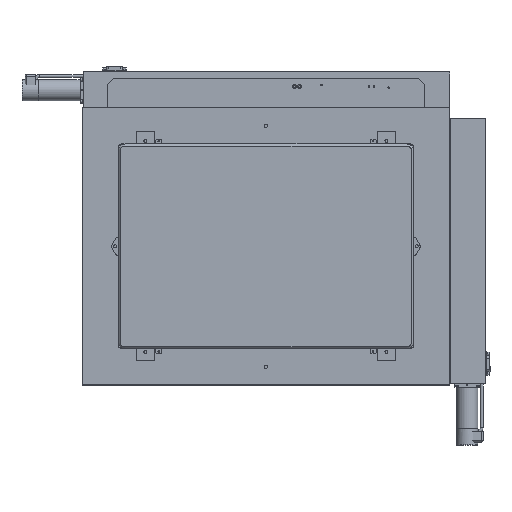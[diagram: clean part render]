
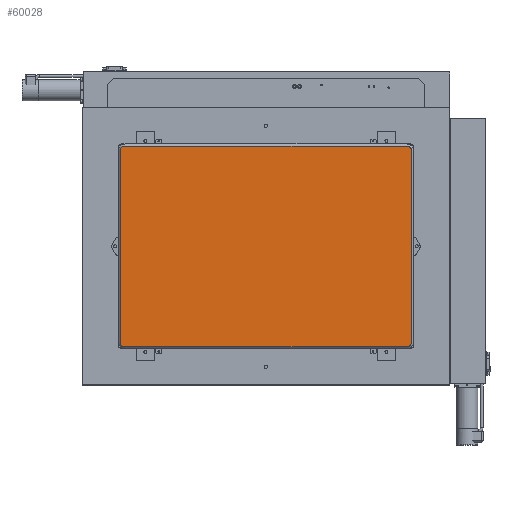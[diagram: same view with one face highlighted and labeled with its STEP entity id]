
A CAD part, top view. The second image highlights one B-rep face of the part: STEP entity #60028.
In plain terms, the highlighted planar face has unit normal (0, 0, 1).
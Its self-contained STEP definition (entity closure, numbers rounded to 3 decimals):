
#3865=PLANE('',#64878);
#6717=FACE_OUTER_BOUND('',#10526,.T.);
#10526=EDGE_LOOP('',(#50827,#50828,#50829,#50830,#50831,#50832,#50833,#50834));
#15486=LINE('',#102171,#20431);
#15491=LINE('',#102185,#20436);
#15494=LINE('',#102190,#20439);
#15498=LINE('',#102205,#20443);
#20431=VECTOR('',#78428,10.);
#20436=VECTOR('',#78443,10.);
#20439=VECTOR('',#78448,10.);
#20443=VECTOR('',#78466,10.);
#22722=CIRCLE('',#64864,7.);
#22723=CIRCLE('',#64866,7.);
#22724=CIRCLE('',#64870,7.);
#22727=CIRCLE('',#64874,7.);
#28058=VERTEX_POINT('',#102168);
#28059=VERTEX_POINT('',#102170);
#28060=VERTEX_POINT('',#102174);
#28061=VERTEX_POINT('',#102178);
#28063=VERTEX_POINT('',#102183);
#28064=VERTEX_POINT('',#102188);
#28066=VERTEX_POINT('',#102193);
#28067=VERTEX_POINT('',#102198);
#35805=EDGE_CURVE('',#28058,#28059,#15486,.T.);
#35808=EDGE_CURVE('',#28060,#28058,#22722,.T.);
#35810=EDGE_CURVE('',#28059,#28061,#22723,.T.);
#35812=EDGE_CURVE('',#28063,#28060,#15491,.T.);
#35815=EDGE_CURVE('',#28061,#28064,#15494,.T.);
#35817=EDGE_CURVE('',#28066,#28063,#22724,.T.);
#35821=EDGE_CURVE('',#28064,#28067,#22727,.T.);
#35823=EDGE_CURVE('',#28067,#28066,#15498,.T.);
#50827=ORIENTED_EDGE('',*,*,#35805,.F.);
#50828=ORIENTED_EDGE('',*,*,#35808,.F.);
#50829=ORIENTED_EDGE('',*,*,#35812,.F.);
#50830=ORIENTED_EDGE('',*,*,#35817,.F.);
#50831=ORIENTED_EDGE('',*,*,#35823,.F.);
#50832=ORIENTED_EDGE('',*,*,#35821,.F.);
#50833=ORIENTED_EDGE('',*,*,#35815,.F.);
#50834=ORIENTED_EDGE('',*,*,#35810,.F.);
#60028=ADVANCED_FACE('',(#6717),#3865,.T.);
#64864=AXIS2_PLACEMENT_3D('',#102176,#78433,#78434);
#64866=AXIS2_PLACEMENT_3D('',#102180,#78438,#78439);
#64870=AXIS2_PLACEMENT_3D('',#102195,#78452,#78453);
#64874=AXIS2_PLACEMENT_3D('',#102202,#78461,#78462);
#64878=AXIS2_PLACEMENT_3D('',#102210,#78473,#78474);
#78428=DIRECTION('',(0.,1.,0.));
#78433=DIRECTION('center_axis',(0.,0.,-1.));
#78434=DIRECTION('ref_axis',(-0.707,-0.707,0.));
#78438=DIRECTION('center_axis',(0.,0.,-1.));
#78439=DIRECTION('ref_axis',(-0.707,0.707,0.));
#78443=DIRECTION('',(-1.,0.,0.));
#78448=DIRECTION('',(1.,0.,0.));
#78452=DIRECTION('center_axis',(0.,0.,-1.));
#78453=DIRECTION('ref_axis',(0.707,-0.707,0.));
#78461=DIRECTION('center_axis',(0.,0.,-1.));
#78462=DIRECTION('ref_axis',(0.707,0.707,0.));
#78466=DIRECTION('',(0.,-1.,0.));
#78473=DIRECTION('center_axis',(0.,0.,1.));
#78474=DIRECTION('ref_axis',(1.,0.,0.));
#102168=CARTESIAN_POINT('',(3.,10.,12.));
#102170=CARTESIAN_POINT('',(3.,329.,12.));
#102171=CARTESIAN_POINT('',(3.,84.75,12.));
#102174=CARTESIAN_POINT('',(10.,3.,12.));
#102176=CARTESIAN_POINT('Origin',(10.,10.,12.));
#102178=CARTESIAN_POINT('',(10.,336.,12.));
#102180=CARTESIAN_POINT('Origin',(10.,329.,12.));
#102183=CARTESIAN_POINT('',(479.,3.,12.));
#102185=CARTESIAN_POINT('',(366.75,3.,12.));
#102188=CARTESIAN_POINT('',(479.,336.,12.));
#102190=CARTESIAN_POINT('',(122.25,336.,12.));
#102193=CARTESIAN_POINT('',(486.,10.,12.));
#102195=CARTESIAN_POINT('Origin',(479.,10.,12.));
#102198=CARTESIAN_POINT('',(486.,329.,12.));
#102202=CARTESIAN_POINT('Origin',(479.,329.,12.));
#102205=CARTESIAN_POINT('',(486.,254.25,12.));
#102210=CARTESIAN_POINT('Origin',(244.5,169.5,12.));
